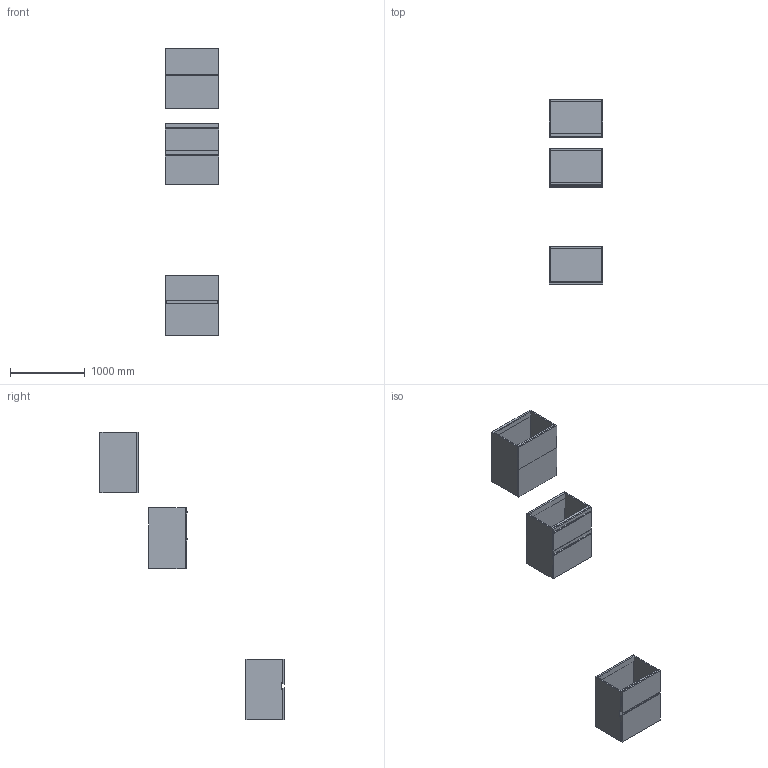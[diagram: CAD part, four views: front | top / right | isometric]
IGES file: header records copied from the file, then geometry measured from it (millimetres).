
Start section: Data from Parasolid IGES Translator 19.0.9, Copyright(c) 2006 Siemens PL M Software. All Rights Reserved.
Global section: file name: noorth-SI-H 81,2 D 51 W 72_9721.igs; native system: By Siemens PLM Incorporated; preprocessor: XPlus GENERIC/IGES 19.0.9; author: Noname; organization: Noname; date: 20200601.140645; units: metre
Bounding box: 720 x 2458 x 3842 mm (x, y, z)
Volume: 97535907.1 mm3; surface area: 14957763.5 mm2
Topology: 27 solids, 27 shells, 266 faces, 580 edges, 348 vertices
Faces by surface type: plane 182, extrusion 36, bspline 32, cylinder 16
